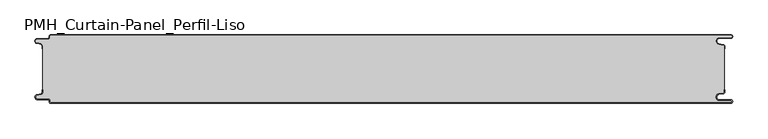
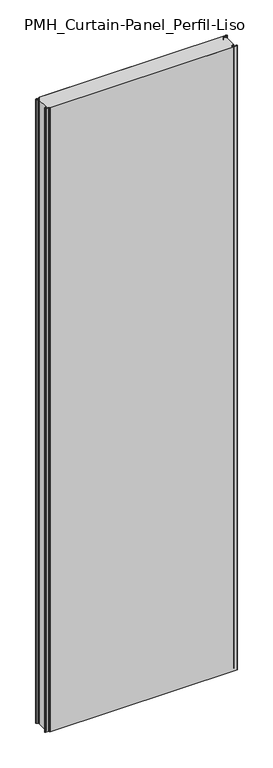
"""IFC4 building model written with IfcOpenShell, lengths in millimetres: plate geometry, PMH_Curtain-Panel_Perfil-Liso : ACH_PMH_Panel-Acústico-Sectorización_100M."""

from ifc_helpers import new_model, si_unit, point, frame, frame_2d, origin, origin_with_axes, place, context, project, spatial, polyline, circle_curve, trimmed, segment, composite_curve, outline, extrude, source, transform, mapped, element, save
from ifc_brep_helpers import plane_surface, cylinder_surface, revolved_surface, advanced_brep


def pmh_curtain_panel_perfil_liso_a8378464(model_context):
    return source(origin(), model_context, "Body", "SolidModel", [
        advanced_brep(
        [(508.1, 0.0, 3500.0), (510.6, 2.5000002, 3500.0), (508.1, 5.0, 3500.0), (491.1, 5.0, 3500.0), (490.405407, 12.939231, 3500.0), (496.8514855, 14.0758491, 3500.0), (499.0, 16.6363492, 3500.0), (499.0, 20.0, 3500.0), (498.2, 20.0, 3500.0), (498.2, 16.6363492, 3500.0), (496.7125669, 14.8636953, 3500.0), (490.2664884, 13.7270771, 3500.0), (491.1, 4.2, 3500.0), (508.1, 4.2, 3500.0), (508.1, 0.8, 3500.0), (-487.4, 0.8, 3500.0), (-488.6, 2.0, 3500.0), (-488.6, 3.4, 3500.0), (-491.4, 6.2, 3500.0), (-506.9, 6.2, 3500.0), (-507.529863, 11.7282362, 3500.0), (-501.370137, 13.150321, 3500.0), (-499.2, 15.878557, 3500.0), (-499.2, 20.0, 3500.0), (-500.0, 20.0, 3500.0), (-500.0, 15.878557, 3500.0), (-501.5500978, 13.9298169, 3500.0), (-507.7098239, 12.507732, 3500.0), (-506.9, 5.4, 3500.0), (-491.4, 5.4, 3500.0), (-489.4, 3.4, 3500.0), (-489.4, 2.0, 3500.0), (-487.4, 0.0, 3500.0), (-487.4, 0.0, 0.0), (-489.4, 2.0, 0.0), (-489.4, 3.4, 0.0), (-491.4, 5.4, 0.0), (-506.9, 5.4, 0.0), (-507.7098239, 12.5077322, 0.0), (-501.5500979, 13.929817, 0.0), (-500.0, 15.878557, 0.0), (-500.0, 20.0, 0.0), (-499.2, 20.0, 0.0), (-499.2, 15.878557, 0.0), (-501.370137, 13.1503208, 0.0), (-507.529863, 11.728236, 0.0), (-506.9, 6.2, 0.0), (-491.4, 6.2, 0.0), (-488.6, 3.4, 0.0), (-488.6, 2.0, 0.0), (-487.4, 0.8, 0.0), (508.1, 0.8, 0.0), (508.1, 4.2, 0.0), (491.1, 4.2, 0.0), (490.2664884, 13.7270771, 0.0), (496.7125669, 14.8636953, 0.0), (498.2, 16.6363492, 0.0), (498.2, 20.0, 0.0), (499.0, 20.0, 0.0), (499.0, 16.6363492, 0.0), (496.8514855, 14.0758491, 0.0), (490.405407, 12.939231, 0.0), (491.1, 5.0, 0.0), (508.1, 5.0, 0.0), (510.6, 2.4999998, 0.0), (508.1, 0.0, 0.0)],
        [
            (0, 1, circle_curve(frame((508.1, 2.5, 3500.0), z_axis=(0.0, 0.0, 1.0), x_axis=(1.0, 0.0, 0.0)), 2.5)),
            (1, 2, circle_curve(frame((508.1, 2.5, 3500.0), z_axis=(0.0, 0.0, 1.0), x_axis=(1.0, 0.0, 0.0)), 2.5)),
            (2, 3),
            (3, 4, circle_curve(frame((491.1, 9.0, 3500.0), z_axis=(0.0, 0.0, -1.0), x_axis=(1.0, 0.0, 0.0)), 4.0)),
            (4, 5),
            (5, 6, circle_curve(frame((496.4, 16.6363492, 3500.0), z_axis=(0.0, 0.0, 1.0), x_axis=(1.0, 0.0, 0.0)), 2.6)),
            (6, 7),
            (7, 8),
            (8, 9),
            (9, 10, circle_curve(frame((496.4, 16.6363492, 3500.0), z_axis=(0.0, 0.0, -1.0), x_axis=(1.0, 0.0, 0.0)), 1.8)),
            (10, 11),
            (11, 12, circle_curve(frame((491.1, 9.0, 3500.0), z_axis=(0.0, 0.0, 1.0), x_axis=(1.0, 0.0, 0.0)), 4.8)),
            (12, 13),
            (13, 14, circle_curve(frame((508.1, 2.5, 3500.0), z_axis=(0.0, 0.0, -1.0), x_axis=(1.0, 0.0, 0.0)), 1.7)),
            (14, 15),
            (15, 16, circle_curve(frame((-487.4, 2.0, 3500.0), z_axis=(0.0, 0.0, -1.0), x_axis=(1.0, 0.0, 0.0)), 1.2)),
            (16, 17),
            (17, 18, circle_curve(frame((-491.4, 3.4, 3500.0), z_axis=(0.0, 0.0, 1.0), x_axis=(1.0, 0.0, 0.0)), 2.8)),
            (18, 19),
            (19, 20, circle_curve(frame((-506.9, 9.0, 3500.0), z_axis=(0.0, 0.0, -1.0), x_axis=(1.0, 0.0, 0.0)), 2.8)),
            (20, 21),
            (21, 22, circle_curve(frame((-502.0, 15.878557, 3500.0), z_axis=(0.0, 0.0, 1.0), x_axis=(1.0, 0.0, 0.0)), 2.8)),
            (22, 23),
            (23, 24),
            (24, 25),
            (25, 26, circle_curve(frame((-502.0, 15.878557, 3500.0), z_axis=(0.0, 0.0, -1.0), x_axis=(1.0, 0.0, 0.0)), 2.0)),
            (26, 27),
            (27, 28, circle_curve(frame((-506.9, 9.0, 3500.0), z_axis=(0.0, 0.0, 1.0), x_axis=(1.0, 0.0, 0.0)), 3.6)),
            (28, 29),
            (29, 30, circle_curve(frame((-491.4, 3.4, 3500.0), z_axis=(0.0, 0.0, -1.0), x_axis=(1.0, 0.0, 0.0)), 2.0)),
            (30, 31),
            (31, 32, circle_curve(frame((-487.4, 2.0, 3500.0), z_axis=(0.0, 0.0, 1.0), x_axis=(1.0, 0.0, 0.0)), 2.0)),
            (32, 0),
            (33, 34, circle_curve(frame((-487.4, 2.0, 0.0), z_axis=(0.0, 0.0, -1.0), x_axis=(1.0, 0.0, 0.0)), 2.0)),
            (34, 35),
            (35, 36, circle_curve(frame((-491.4, 3.4, 0.0), z_axis=(0.0, 0.0, 1.0), x_axis=(1.0, 0.0, 0.0)), 2.0)),
            (36, 37),
            (37, 38, circle_curve(frame((-506.9, 9.0, 0.0), z_axis=(0.0, 0.0, -1.0), x_axis=(1.0, 0.0, 0.0)), 3.6)),
            (38, 39),
            (39, 40, circle_curve(frame((-502.0, 15.878557, 0.0), z_axis=(0.0, 0.0, 1.0), x_axis=(1.0, 0.0, 0.0)), 2.0)),
            (40, 41),
            (41, 42),
            (42, 43),
            (43, 44, circle_curve(frame((-502.0, 15.878557, 0.0), z_axis=(0.0, 0.0, -1.0), x_axis=(1.0, 0.0, 0.0)), 2.8)),
            (44, 45),
            (45, 46, circle_curve(frame((-506.9, 9.0, 0.0), z_axis=(0.0, 0.0, 1.0), x_axis=(1.0, 0.0, 0.0)), 2.8)),
            (46, 47),
            (47, 48, circle_curve(frame((-491.4, 3.4, 0.0), z_axis=(0.0, 0.0, -1.0), x_axis=(1.0, 0.0, 0.0)), 2.8)),
            (48, 49),
            (49, 50, circle_curve(frame((-487.4, 2.0, 0.0), z_axis=(0.0, 0.0, 1.0), x_axis=(1.0, 0.0, 0.0)), 1.2)),
            (50, 51),
            (51, 52, circle_curve(frame((508.1, 2.5, 0.0), z_axis=(0.0, 0.0, 1.0), x_axis=(1.0, 0.0, 0.0)), 1.7)),
            (52, 53),
            (53, 54, circle_curve(frame((491.1, 9.0, 0.0), z_axis=(0.0, 0.0, -1.0), x_axis=(1.0, 0.0, 0.0)), 4.8)),
            (54, 55),
            (55, 56, circle_curve(frame((496.4, 16.6363492, 0.0), z_axis=(0.0, 0.0, 1.0), x_axis=(1.0, 0.0, 0.0)), 1.8)),
            (56, 57),
            (57, 58),
            (58, 59),
            (59, 60, circle_curve(frame((496.4, 16.6363492, 0.0), z_axis=(0.0, 0.0, -1.0), x_axis=(1.0, 0.0, 0.0)), 2.6)),
            (60, 61),
            (61, 62, circle_curve(frame((491.1, 9.0, 0.0), z_axis=(0.0, 0.0, 1.0), x_axis=(1.0, 0.0, 0.0)), 4.0)),
            (62, 63),
            (63, 64, circle_curve(frame((508.1, 2.5, 0.0), z_axis=(0.0, 0.0, -1.0), x_axis=(1.0, 0.0, 0.0)), 2.5)),
            (64, 65, circle_curve(frame((508.1, 2.5, 0.0), z_axis=(0.0, 0.0, -1.0), x_axis=(1.0, 0.0, 0.0)), 2.5)),
            (65, 33),
            (31, 34),
            (33, 32),
            (30, 35),
            (29, 36),
            (28, 37),
            (27, 38),
            (26, 39),
            (25, 40),
            (24, 41),
            (23, 42),
            (22, 43),
            (21, 44),
            (20, 45),
            (19, 46),
            (18, 47),
            (17, 48),
            (16, 49),
            (15, 50),
            (14, 51),
            (13, 52),
            (12, 53),
            (11, 54),
            (10, 55),
            (9, 56),
            (8, 57),
            (7, 58),
            (6, 59),
            (5, 60),
            (4, 61),
            (3, 62),
            (2, 63),
            (0, 65),
        ],
        [
            plane_surface(frame((-500.0, 0.0, 3500.0), z_axis=(0.0, 0.0, 1.0), x_axis=(0.0, -1.0, 0.0))),
            plane_surface(frame((-500.0, 0.0, 0.0), z_axis=(0.0, 0.0, -1.0), x_axis=(0.0, -1.0, 0.0))),
            cylinder_surface(frame((-487.4, 2.0, 3500.0), z_axis=(0.0, 0.0, 1.0), x_axis=(1.0, 0.0, 0.0)), 2.0),
            plane_surface(frame((-489.4, 2.0, 3500.0), z_axis=(-1.0, 0.0, 0.0), x_axis=(0.0, 0.0, -1.0))),
            revolved_surface(polyline([(-489.4, 3.4, 0.0), (-489.4, 3.4, 3500.0)]), (-491.4, 3.4, 3500.0), (0.0, 0.0, -1.0)),
            plane_surface(frame((-491.4, 5.4, 3500.0), z_axis=(0.0, -1.0, 0.0), x_axis=(0.0, 0.0, -1.0))),
            cylinder_surface(frame((-506.9, 9.0, 3500.0), z_axis=(0.0, 0.0, 1.0), x_axis=(1.0, 0.0, 0.0)), 3.6),
            plane_surface(frame((-507.7098239, 12.507732, 3500.0), z_axis=(-0.2249510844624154, 0.9743700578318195, 0.0), x_axis=(0.0, 0.0, -1.0))),
            revolved_surface(polyline([(-500.0, 15.878557, 0.0), (-500.0, 15.878557, 3500.0)]), (-502.0, 15.878557, 3500.0), (0.0, 0.0, -1.0)),
            plane_surface(frame((-500.0, 15.878557, 3500.0), z_axis=(-1.0, 0.0, 0.0), x_axis=(0.0, 0.0, -1.0))),
            plane_surface(frame((-500.0, 20.0, 3500.0), z_axis=(0.0, 1.0, 0.0), x_axis=(0.0, 0.0, -1.0))),
            plane_surface(frame((-499.2, 20.0, 3500.0), z_axis=(1.0, 0.0, 0.0), x_axis=(0.0, 0.0, -1.0))),
            cylinder_surface(frame((-502.0, 15.878557, 3500.0), z_axis=(0.0, 0.0, 1.0), x_axis=(1.0, 0.0, 0.0)), 2.8),
            plane_surface(frame((-501.370137, 13.150321, 3500.0), z_axis=(0.22495108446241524, -0.9743700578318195, 0.0), x_axis=(0.0, 0.0, -1.0))),
            revolved_surface(polyline([(-504.09999999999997, 9.0, 0.0), (-504.09999999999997, 9.0, 3500.0)]), (-506.9, 9.0, 3500.0), (0.0, 0.0, -1.0)),
            plane_surface(frame((-506.9, 6.2, 3500.0), z_axis=(0.0, 1.0, 0.0), x_axis=(0.0, 0.0, -1.0))),
            cylinder_surface(frame((-491.4, 3.4, 3500.0), z_axis=(0.0, 0.0, 1.0), x_axis=(1.0, 0.0, 0.0)), 2.8),
            plane_surface(frame((-488.6, 3.4, 3500.0), z_axis=(1.0, 0.0, 0.0), x_axis=(0.0, 0.0, -1.0))),
            revolved_surface(polyline([(-486.2, 2.0, 0.0), (-486.2, 2.0, 3500.0)]), (-487.4, 2.0, 3500.0), (0.0, 0.0, -1.0)),
            plane_surface(frame((-487.4, 0.8, 3500.0), z_axis=(0.0, 1.0, 0.0), x_axis=(0.0, 0.0, -1.0))),
            revolved_surface(polyline([(509.8, 2.5, 0.0), (509.8, 2.5, 3500.0)]), (508.1, 2.5, 3500.0), (0.0, 0.0, -1.0)),
            plane_surface(frame((508.1, 4.2, 3500.0), z_axis=(0.0, -1.0, 0.0), x_axis=(0.0, 0.0, -1.0))),
            cylinder_surface(frame((491.1, 9.0, 3500.0), z_axis=(0.0, 0.0, 1.0), x_axis=(1.0, 0.0, 0.0)), 4.8),
            plane_surface(frame((490.2664884, 13.7270771, 3500.0), z_axis=(-0.17364826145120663, 0.984807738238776, 0.0), x_axis=(0.0, 0.0, -1.0))),
            revolved_surface(polyline([(498.2, 16.6363492, 0.0), (498.2, 16.6363492, 3500.0)]), (496.4, 16.6363492, 3500.0), (0.0, 0.0, -1.0)),
            plane_surface(frame((498.2, 16.6363492, 3500.0), z_axis=(-1.0, 0.0, 0.0), x_axis=(0.0, 0.0, -1.0))),
            plane_surface(frame((498.2, 20.0, 3500.0), z_axis=(0.0, 1.0, 0.0), x_axis=(0.0, 0.0, -1.0))),
            plane_surface(frame((499.0, 20.0, 3500.0), z_axis=(1.0, 0.0, 0.0), x_axis=(0.0, 0.0, -1.0))),
            cylinder_surface(frame((496.4, 16.6363492, 3500.0), z_axis=(0.0, 0.0, 1.0), x_axis=(1.0, 0.0, 0.0)), 2.6),
            plane_surface(frame((496.8514855, 14.0758491, 3500.0), z_axis=(0.17364826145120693, -0.9848077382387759, 0.0), x_axis=(0.0, 0.0, -1.0))),
            revolved_surface(polyline([(495.1, 9.0, 0.0), (495.1, 9.0, 3500.0)]), (491.1, 9.0, 3500.0), (0.0, 0.0, -1.0)),
            plane_surface(frame((491.1, 5.0, 3500.0), z_axis=(0.0, 1.0, 0.0), x_axis=(0.0, 0.0, -1.0))),
            cylinder_surface(frame((508.1, 2.5, 3500.0), z_axis=(0.0, 0.0, 1.0), x_axis=(1.0, 0.0, 0.0)), 2.5),
            plane_surface(frame((490.5783588, 0.0, 3500.0), z_axis=(0.0, -1.0, 0.0), x_axis=(0.0, 0.0, -1.0))),
        ],
        [
            (0, [[1, 2, 3, 4, 5, 6, 7, 8, 9, 10, 11, 12, 13, 14, 15, 16, 17, 18, 19, 20, 21, 22, 23, 24, 25, 26, 27, 28, 29, 30, 31, 32, 33]]),
            (1, [[34, 35, 36, 37, 38, 39, 40, 41, 42, 43, 44, 45, 46, 47, 48, 49, 50, 51, 52, 53, 54, 55, 56, 57, 58, 59, 60, 61, 62, 63, 64, 65, 66]]),
            (2, [[67, -34, 68, -32]]),
            (3, [[69, -35, -67, -31]]),
            (4, [[70, -36, -69, -30]]),
            (5, [[71, -37, -70, -29]]),
            (6, [[72, -38, -71, -28]]),
            (7, [[73, -39, -72, -27]]),
            (8, [[74, -40, -73, -26]]),
            (9, [[75, -41, -74, -25]]),
            (10, [[76, -42, -75, -24]]),
            (11, [[77, -43, -76, -23]]),
            (12, [[78, -44, -77, -22]]),
            (13, [[79, -45, -78, -21]]),
            (14, [[80, -46, -79, -20]]),
            (15, [[81, -47, -80, -19]]),
            (16, [[82, -48, -81, -18]]),
            (17, [[83, -49, -82, -17]]),
            (18, [[84, -50, -83, -16]]),
            (19, [[85, -51, -84, -15]]),
            (20, [[86, -52, -85, -14]]),
            (21, [[87, -53, -86, -13]]),
            (22, [[88, -54, -87, -12]]),
            (23, [[89, -55, -88, -11]]),
            (24, [[90, -56, -89, -10]]),
            (25, [[91, -57, -90, -9]]),
            (26, [[92, -58, -91, -8]]),
            (27, [[93, -59, -92, -7]]),
            (28, [[94, -60, -93, -6]]),
            (29, [[95, -61, -94, -5]]),
            (30, [[96, -62, -95, -4]]),
            (31, [[97, -63, -96, -3]]),
            (32, [[-2, -1, 98, -65, -64, -97]]),
            (33, [[-68, -66, -98, -33]]),
        ],
    ),
        extrude(outline(composite_curve([segment(trimmed(circle_curve(frame_2d((-502.0, 84.1214426)), 2.8), [point((-499.2, 84.1214426))], [point((-501.370137, 86.8496788))], True, "CARTESIAN"), True, "CONTINUOUS"), segment(polyline([(-501.370137, 86.8496788), (-507.5298631, 88.2717638)]), True, "CONTINUOUS"), segment(trimmed(circle_curve(frame_2d((-506.9, 91.0)), 2.8), [point((-507.5298631, 88.2717638))], [point((-506.9, 93.8))], False, "CARTESIAN"), True, "CONTINUOUS"), segment(polyline([(-506.9, 93.8), (-491.4000001, 93.8)]), True, "CONTINUOUS"), segment(trimmed(circle_curve(frame_2d((-491.4000001, 96.6)), 2.8), [point((-491.4000001, 93.8))], [point((-488.6000001, 96.6))], True, "CARTESIAN"), True, "CONTINUOUS"), segment(polyline([(-488.6000001, 96.6), (-488.6000001, 98.0)]), True, "CONTINUOUS"), segment(trimmed(circle_curve(frame_2d((-487.4000001, 98.0)), 1.2), [point((-488.6000001, 98.0))], [point((-487.4000001, 99.2))], False, "CARTESIAN"), True, "CONTINUOUS"), segment(polyline([(-487.4000001, 99.2), (508.1, 99.2)]), True, "CONTINUOUS"), segment(trimmed(circle_curve(frame_2d((508.1, 97.5)), 1.7), [point((508.1, 99.2))], [point((508.1, 95.8))], False, "CARTESIAN"), True, "CONTINUOUS"), segment(polyline([(508.1, 95.8), (491.1, 95.8)]), True, "CONTINUOUS"), segment(trimmed(circle_curve(frame_2d((491.1, 91.0)), 4.8), [point((491.1, 95.8))], [point((490.2664883, 86.2729229))], True, "CARTESIAN"), True, "CONTINUOUS"), segment(polyline([(490.2664883, 86.2729229), (496.7125668, 85.1363047)]), True, "CONTINUOUS"), segment(trimmed(circle_curve(frame_2d((496.4, 83.3636508)), 1.8), [point((496.7125668, 85.1363047))], [point((498.2, 83.3636508))], False, "CARTESIAN"), True, "CONTINUOUS"), segment(polyline([(498.2, 83.3636508), (498.2, 16.6363492)]), True, "CONTINUOUS"), segment(trimmed(circle_curve(frame_2d((496.4, 16.6363492)), 1.8), [point((498.2, 16.6363492))], [point((496.7125668, 14.8636953))], False, "CARTESIAN"), True, "CONTINUOUS"), segment(polyline([(496.7125668, 14.8636953), (490.2664883, 13.7270771)]), True, "CONTINUOUS"), segment(trimmed(circle_curve(frame_2d((491.1, 9.0)), 4.8), [point((490.2664883, 13.7270771))], [point((491.1, 4.2))], True, "CARTESIAN"), True, "CONTINUOUS"), segment(polyline([(491.1, 4.2), (508.1, 4.2)]), True, "CONTINUOUS"), segment(trimmed(circle_curve(frame_2d((508.1, 2.5)), 1.7), [point((508.1, 4.2))], [point((508.1, 0.8))], False, "CARTESIAN"), True, "CONTINUOUS"), segment(polyline([(508.1, 0.8), (-487.4000001, 0.8)]), True, "CONTINUOUS"), segment(trimmed(circle_curve(frame_2d((-487.4000001, 2.0)), 1.2), [point((-487.4000001, 0.8))], [point((-488.6000001, 2.0))], False, "CARTESIAN"), True, "CONTINUOUS"), segment(polyline([(-488.6000001, 2.0), (-488.6000001, 3.4)]), True, "CONTINUOUS"), segment(trimmed(circle_curve(frame_2d((-491.4000001, 3.4)), 2.8), [point((-488.6000001, 3.4))], [point((-491.4000001, 6.2))], True, "CARTESIAN"), True, "CONTINUOUS"), segment(polyline([(-491.4000001, 6.2), (-506.9, 6.2)]), True, "CONTINUOUS"), segment(trimmed(circle_curve(frame_2d((-506.9, 9.0)), 2.8), [point((-506.9, 6.2))], [point((-507.5298631, 11.7282362))], False, "CARTESIAN"), True, "CONTINUOUS"), segment(polyline([(-507.5298631, 11.7282362), (-501.370137, 13.1503212)]), True, "CONTINUOUS"), segment(trimmed(circle_curve(frame_2d((-502.0, 15.8785573)), 2.8), [point((-501.370137, 13.1503212))], [point((-499.2, 15.8785573))], True, "CARTESIAN"), True, "CONTINUOUS"), segment(polyline([(-499.2, 15.8785573), (-499.2, 84.1214426)]), True, "CONTINUOUS")], self_intersect=False)), origin_with_axes(), (0.0, 0.0, 1.0), 3500.0),
        advanced_brep(
        [(-487.4, 100.0, 3500.0), (-489.4, 98.0, 3500.0), (-489.4, 96.6, 3500.0), (-491.4, 94.6, 3500.0), (-506.9, 94.6, 3500.0), (-507.7098239, 87.4922678, 3500.0), (-501.5500979, 86.070183, 3500.0), (-500.0, 84.121443, 3500.0), (-500.0, 80.0, 3500.0), (-499.2, 80.0, 3500.0), (-499.2, 84.121443, 3500.0), (-501.370137, 86.8496792, 3500.0), (-507.529863, 88.271764, 3500.0), (-506.9, 93.8, 3500.0), (-491.4, 93.8, 3500.0), (-488.6, 96.6, 3500.0), (-488.6, 98.0, 3500.0), (-487.4, 99.2, 3500.0), (508.1, 99.2, 3500.0), (508.1, 95.8, 3500.0), (491.1, 95.8, 3500.0), (490.2664884, 86.2729229, 3500.0), (496.7125669, 85.1363047, 3500.0), (498.2, 83.3636508, 3500.0), (498.2, 80.0, 3500.0), (499.0, 80.0, 3500.0), (499.0, 83.3636508, 3500.0), (496.8514855, 85.9241509, 3500.0), (490.405407, 87.060769, 3500.0), (491.1, 95.0, 3500.0), (508.1, 95.0, 3500.0), (510.6, 97.5000002, 3500.0), (508.1, 100.0, 3500.0), (508.1, 100.0, 0.0), (510.6, 97.4999998, 0.0), (508.1, 95.0, 0.0), (491.1, 95.0, 0.0), (490.405407, 87.060769, 0.0), (496.8514855, 85.9241509, 0.0), (499.0, 83.3636508, 0.0), (499.0, 80.0, 0.0), (498.2, 80.0, 0.0), (498.2, 83.3636508, 0.0), (496.7125669, 85.1363047, 0.0), (490.2664884, 86.2729229, 0.0), (491.1, 95.8, 0.0), (508.1, 95.8, 0.0), (508.1, 99.2, 0.0), (-487.4, 99.2, 0.0), (-488.6, 98.0, 0.0), (-488.6, 96.6, 0.0), (-491.4, 93.8, 0.0), (-506.9, 93.8, 0.0), (-507.529863, 88.2717638, 0.0), (-501.370137, 86.849679, 0.0), (-499.2, 84.121443, 0.0), (-499.2, 80.0, 0.0), (-500.0, 80.0, 0.0), (-500.0, 84.121443, 0.0), (-501.5500978, 86.0701831, 0.0), (-507.7098239, 87.492268, 0.0), (-506.9, 94.6, 0.0), (-491.4, 94.6, 0.0), (-489.4, 96.6, 0.0), (-489.4, 98.0, 0.0), (-487.4, 100.0, 0.0)],
        [
            (0, 1, circle_curve(frame((-487.4, 98.0, 3500.0), z_axis=(0.0, 0.0, 1.0), x_axis=(1.0, 0.0, 0.0)), 2.0)),
            (1, 2),
            (2, 3, circle_curve(frame((-491.4, 96.6, 3500.0), z_axis=(0.0, 0.0, -1.0), x_axis=(1.0, 0.0, 0.0)), 2.0)),
            (3, 4),
            (4, 5, circle_curve(frame((-506.9, 91.0, 3500.0), z_axis=(0.0, 0.0, 1.0), x_axis=(1.0, 0.0, 0.0)), 3.6)),
            (5, 6),
            (6, 7, circle_curve(frame((-502.0, 84.121443, 3500.0), z_axis=(0.0, 0.0, -1.0), x_axis=(1.0, 0.0, 0.0)), 2.0)),
            (7, 8),
            (8, 9),
            (9, 10),
            (10, 11, circle_curve(frame((-502.0, 84.121443, 3500.0), z_axis=(0.0, 0.0, 1.0), x_axis=(1.0, 0.0, 0.0)), 2.8)),
            (11, 12),
            (12, 13, circle_curve(frame((-506.9, 91.0, 3500.0), z_axis=(0.0, 0.0, -1.0), x_axis=(1.0, 0.0, 0.0)), 2.8)),
            (13, 14),
            (14, 15, circle_curve(frame((-491.4, 96.6, 3500.0), z_axis=(0.0, 0.0, 1.0), x_axis=(1.0, 0.0, 0.0)), 2.8)),
            (15, 16),
            (16, 17, circle_curve(frame((-487.4, 98.0, 3500.0), z_axis=(0.0, 0.0, -1.0), x_axis=(1.0, 0.0, 0.0)), 1.2)),
            (17, 18),
            (18, 19, circle_curve(frame((508.1, 97.5, 3500.0), z_axis=(0.0, 0.0, -1.0), x_axis=(1.0, 0.0, 0.0)), 1.7)),
            (19, 20),
            (20, 21, circle_curve(frame((491.1, 91.0, 3500.0), z_axis=(0.0, 0.0, 1.0), x_axis=(1.0, 0.0, 0.0)), 4.8)),
            (21, 22),
            (22, 23, circle_curve(frame((496.4, 83.3636508, 3500.0), z_axis=(0.0, 0.0, -1.0), x_axis=(1.0, 0.0, 0.0)), 1.8)),
            (23, 24),
            (24, 25),
            (25, 26),
            (26, 27, circle_curve(frame((496.4, 83.3636508, 3500.0), z_axis=(0.0, 0.0, 1.0), x_axis=(1.0, 0.0, 0.0)), 2.6)),
            (27, 28),
            (28, 29, circle_curve(frame((491.1, 91.0, 3500.0), z_axis=(0.0, 0.0, -1.0), x_axis=(1.0, 0.0, 0.0)), 4.0)),
            (29, 30),
            (30, 31, circle_curve(frame((508.1, 97.5, 3500.0), z_axis=(0.0, 0.0, 1.0), x_axis=(1.0, 0.0, 0.0)), 2.5)),
            (31, 32, circle_curve(frame((508.1, 97.5, 3500.0), z_axis=(0.0, 0.0, 1.0), x_axis=(1.0, 0.0, 0.0)), 2.5)),
            (32, 0),
            (33, 34, circle_curve(frame((508.1, 97.5, 0.0), z_axis=(0.0, 0.0, -1.0), x_axis=(1.0, 0.0, 0.0)), 2.5)),
            (34, 35, circle_curve(frame((508.1, 97.5, 0.0), z_axis=(0.0, 0.0, -1.0), x_axis=(1.0, 0.0, 0.0)), 2.5)),
            (35, 36),
            (36, 37, circle_curve(frame((491.1, 91.0, 0.0), z_axis=(0.0, 0.0, 1.0), x_axis=(1.0, 0.0, 0.0)), 4.0)),
            (37, 38),
            (38, 39, circle_curve(frame((496.4, 83.3636508, 0.0), z_axis=(0.0, 0.0, -1.0), x_axis=(1.0, 0.0, 0.0)), 2.6)),
            (39, 40),
            (40, 41),
            (41, 42),
            (42, 43, circle_curve(frame((496.4, 83.3636508, 0.0), z_axis=(0.0, 0.0, 1.0), x_axis=(1.0, 0.0, 0.0)), 1.8)),
            (43, 44),
            (44, 45, circle_curve(frame((491.1, 91.0, 0.0), z_axis=(0.0, 0.0, -1.0), x_axis=(1.0, 0.0, 0.0)), 4.8)),
            (45, 46),
            (46, 47, circle_curve(frame((508.1, 97.5, 0.0), z_axis=(0.0, 0.0, 1.0), x_axis=(1.0, 0.0, 0.0)), 1.7)),
            (47, 48),
            (48, 49, circle_curve(frame((-487.4, 98.0, 0.0), z_axis=(0.0, 0.0, 1.0), x_axis=(1.0, 0.0, 0.0)), 1.2)),
            (49, 50),
            (50, 51, circle_curve(frame((-491.4, 96.6, 0.0), z_axis=(0.0, 0.0, -1.0), x_axis=(1.0, 0.0, 0.0)), 2.8)),
            (51, 52),
            (52, 53, circle_curve(frame((-506.9, 91.0, 0.0), z_axis=(0.0, 0.0, 1.0), x_axis=(1.0, 0.0, 0.0)), 2.8)),
            (53, 54),
            (54, 55, circle_curve(frame((-502.0, 84.121443, 0.0), z_axis=(0.0, 0.0, -1.0), x_axis=(1.0, 0.0, 0.0)), 2.8)),
            (55, 56),
            (56, 57),
            (57, 58),
            (58, 59, circle_curve(frame((-502.0, 84.121443, 0.0), z_axis=(0.0, 0.0, 1.0), x_axis=(1.0, 0.0, 0.0)), 2.0)),
            (59, 60),
            (60, 61, circle_curve(frame((-506.9, 91.0, 0.0), z_axis=(0.0, 0.0, -1.0), x_axis=(1.0, 0.0, 0.0)), 3.6)),
            (61, 62),
            (62, 63, circle_curve(frame((-491.4, 96.6, 0.0), z_axis=(0.0, 0.0, 1.0), x_axis=(1.0, 0.0, 0.0)), 2.0)),
            (63, 64),
            (64, 65, circle_curve(frame((-487.4, 98.0, 0.0), z_axis=(0.0, 0.0, -1.0), x_axis=(1.0, 0.0, 0.0)), 2.0)),
            (65, 33),
            (32, 33),
            (65, 0),
            (30, 35),
            (29, 36),
            (28, 37),
            (27, 38),
            (26, 39),
            (25, 40),
            (24, 41),
            (23, 42),
            (22, 43),
            (21, 44),
            (20, 45),
            (19, 46),
            (18, 47),
            (17, 48),
            (16, 49),
            (15, 50),
            (14, 51),
            (13, 52),
            (12, 53),
            (11, 54),
            (10, 55),
            (9, 56),
            (8, 57),
            (7, 58),
            (6, 59),
            (5, 60),
            (4, 61),
            (3, 62),
            (2, 63),
            (1, 64),
        ],
        [
            plane_surface(frame((-500.0, 100.0, 3500.0), z_axis=(0.0, 0.0, 1.0), x_axis=(0.0, -1.0, 0.0))),
            plane_surface(frame((-500.0, 100.0, 0.0), z_axis=(0.0, 0.0, -1.0), x_axis=(0.0, -1.0, 0.0))),
            plane_surface(frame((490.5783588, 100.0, 3500.0), z_axis=(0.0, 1.0, 0.0), x_axis=(0.0, 0.0, -1.0))),
            cylinder_surface(frame((508.1, 97.5, 3500.0), z_axis=(0.0, 0.0, 1.0), x_axis=(1.0, 0.0, 0.0)), 2.5),
            plane_surface(frame((508.1, 95.0, 3500.0), z_axis=(0.0, -1.0, 0.0), x_axis=(0.0, 0.0, -1.0))),
            revolved_surface(polyline([(495.1, 91.0, 0.0), (495.1, 91.0, 3500.0)]), (491.1, 91.0, 3500.0), (0.0, 0.0, -1.0)),
            plane_surface(frame((490.405407, 87.060769, 3500.0), z_axis=(0.17364826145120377, 0.9848077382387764, 0.0), x_axis=(0.0, 0.0, -1.0))),
            cylinder_surface(frame((496.4, 83.3636508, 3500.0), z_axis=(0.0, 0.0, 1.0), x_axis=(1.0, 0.0, 0.0)), 2.6),
            plane_surface(frame((499.0, 83.3636508, 3500.0), z_axis=(1.0, 0.0, 0.0), x_axis=(0.0, 0.0, -1.0))),
            plane_surface(frame((499.0, 80.0, 3500.0), z_axis=(0.0, -1.0, 0.0), x_axis=(0.0, 0.0, -1.0))),
            plane_surface(frame((498.2, 80.0, 3500.0), z_axis=(-1.0, 0.0, 0.0), x_axis=(0.0, 0.0, -1.0))),
            revolved_surface(polyline([(498.2, 83.3636508, 0.0), (498.2, 83.3636508, 3500.0)]), (496.4, 83.3636508, 3500.0), (0.0, 0.0, -1.0)),
            plane_surface(frame((496.7125669, 85.1363047, 3500.0), z_axis=(-0.17364826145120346, -0.9848077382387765, 0.0), x_axis=(0.0, 0.0, -1.0))),
            cylinder_surface(frame((491.1, 91.0, 3500.0), z_axis=(0.0, 0.0, 1.0), x_axis=(1.0, 0.0, 0.0)), 4.8),
            plane_surface(frame((491.1, 95.8, 3500.0), z_axis=(0.0, 1.0, 0.0), x_axis=(0.0, 0.0, -1.0))),
            revolved_surface(polyline([(509.8, 97.5, 0.0), (509.8, 97.5, 3500.0)]), (508.1, 97.5, 3500.0), (0.0, 0.0, -1.0)),
            plane_surface(frame((508.1, 99.2, 3500.0), z_axis=(0.0, -1.0, 0.0), x_axis=(0.0, 0.0, -1.0))),
            revolved_surface(polyline([(-486.2, 98.0, 0.0), (-486.2, 98.0, 3500.0)]), (-487.4, 98.0, 3500.0), (0.0, 0.0, -1.0)),
            plane_surface(frame((-488.6, 98.0, 3500.0), z_axis=(1.0, 0.0, 0.0), x_axis=(0.0, 0.0, -1.0))),
            cylinder_surface(frame((-491.4, 96.6, 3500.0), z_axis=(0.0, 0.0, 1.0), x_axis=(1.0, 0.0, 0.0)), 2.8),
            plane_surface(frame((-491.4, 93.8, 3500.0), z_axis=(0.0, -1.0, 0.0), x_axis=(0.0, 0.0, -1.0))),
            revolved_surface(polyline([(-504.09999999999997, 91.0, 0.0), (-504.09999999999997, 91.0, 3500.0)]), (-506.9, 91.0, 3500.0), (0.0, 0.0, -1.0)),
            plane_surface(frame((-507.529863, 88.271764, 3500.0), z_axis=(0.2249510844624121, 0.9743700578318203, 0.0), x_axis=(0.0, 0.0, -1.0))),
            cylinder_surface(frame((-502.0, 84.121443, 3500.0), z_axis=(0.0, 0.0, 1.0), x_axis=(1.0, 0.0, 0.0)), 2.8),
            plane_surface(frame((-499.2, 84.121443, 3500.0), z_axis=(1.0, 0.0, 0.0), x_axis=(0.0, 0.0, -1.0))),
            plane_surface(frame((-499.2, 80.0, 3500.0), z_axis=(0.0, -1.0, 0.0), x_axis=(0.0, 0.0, -1.0))),
            plane_surface(frame((-500.0, 80.0, 3500.0), z_axis=(-1.0, 0.0, 0.0), x_axis=(0.0, 0.0, -1.0))),
            revolved_surface(polyline([(-500.0, 84.121443, 0.0), (-500.0, 84.121443, 3500.0)]), (-502.0, 84.121443, 3500.0), (0.0, 0.0, -1.0)),
            plane_surface(frame((-501.5500979, 86.070183, 3500.0), z_axis=(-0.22495108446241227, -0.9743700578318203, 0.0), x_axis=(0.0, 0.0, -1.0))),
            cylinder_surface(frame((-506.9, 91.0, 3500.0), z_axis=(0.0, 0.0, 1.0), x_axis=(1.0, 0.0, 0.0)), 3.6),
            plane_surface(frame((-506.9, 94.6, 3500.0), z_axis=(0.0, 1.0, 0.0), x_axis=(0.0, 0.0, -1.0))),
            revolved_surface(polyline([(-489.4, 96.6, 0.0), (-489.4, 96.6, 3500.0)]), (-491.4, 96.6, 3500.0), (0.0, 0.0, -1.0)),
            plane_surface(frame((-489.4, 96.6, 3500.0), z_axis=(-1.0, 0.0, 0.0), x_axis=(0.0, 0.0, -1.0))),
            cylinder_surface(frame((-487.4, 98.0, 3500.0), z_axis=(0.0, 0.0, 1.0), x_axis=(1.0, 0.0, 0.0)), 2.0),
        ],
        [
            (0, [[1, 2, 3, 4, 5, 6, 7, 8, 9, 10, 11, 12, 13, 14, 15, 16, 17, 18, 19, 20, 21, 22, 23, 24, 25, 26, 27, 28, 29, 30, 31, 32, 33]]),
            (1, [[34, 35, 36, 37, 38, 39, 40, 41, 42, 43, 44, 45, 46, 47, 48, 49, 50, 51, 52, 53, 54, 55, 56, 57, 58, 59, 60, 61, 62, 63, 64, 65, 66]]),
            (2, [[67, -66, 68, -33]]),
            (3, [[-32, -31, 69, -35, -34, -67]]),
            (4, [[70, -36, -69, -30]]),
            (5, [[71, -37, -70, -29]]),
            (6, [[72, -38, -71, -28]]),
            (7, [[73, -39, -72, -27]]),
            (8, [[74, -40, -73, -26]]),
            (9, [[75, -41, -74, -25]]),
            (10, [[76, -42, -75, -24]]),
            (11, [[77, -43, -76, -23]]),
            (12, [[78, -44, -77, -22]]),
            (13, [[79, -45, -78, -21]]),
            (14, [[80, -46, -79, -20]]),
            (15, [[81, -47, -80, -19]]),
            (16, [[82, -48, -81, -18]]),
            (17, [[83, -49, -82, -17]]),
            (18, [[84, -50, -83, -16]]),
            (19, [[85, -51, -84, -15]]),
            (20, [[86, -52, -85, -14]]),
            (21, [[87, -53, -86, -13]]),
            (22, [[88, -54, -87, -12]]),
            (23, [[89, -55, -88, -11]]),
            (24, [[90, -56, -89, -10]]),
            (25, [[91, -57, -90, -9]]),
            (26, [[92, -58, -91, -8]]),
            (27, [[93, -59, -92, -7]]),
            (28, [[94, -60, -93, -6]]),
            (29, [[95, -61, -94, -5]]),
            (30, [[96, -62, -95, -4]]),
            (31, [[97, -63, -96, -3]]),
            (32, [[98, -64, -97, -2]]),
            (33, [[-68, -65, -98, -1]]),
        ],
    ),
    ])


if __name__ == "__main__":
    model = new_model("IFC4")
    model_context = context("Model", 3, world=origin())
    ifc_project = project(units=[si_unit("LENGTHUNIT", "METRE", prefix="MILLI")], contexts=[model_context])
    site = spatial("IfcSite", under=ifc_project)
    building = spatial("IfcBuilding", under=site)
    placement = place(None, origin())
    pmh_curtain_panel_perfil_liso_shape = pmh_curtain_panel_perfil_liso_a8378464(model_context)
    element("IfcPlate", 1, ObjectType="PMH_Curtain-Panel_Perfil-Liso : ACH_PMH_Panel-Acústico-Sectorización_100M", at=placement, inside=building, context=model_context, shape_type="MappedRepresentation", body=[
        mapped(pmh_curtain_panel_perfil_liso_shape, transform((0.0, 0.0, 0.0), x_axis=(1.0, 0.0, 0.0), y_axis=(0.0, 1.0, 0.0), z_axis=(0.0, 0.0, 1.0))),
    ])
    save(model, "model.ifc")
